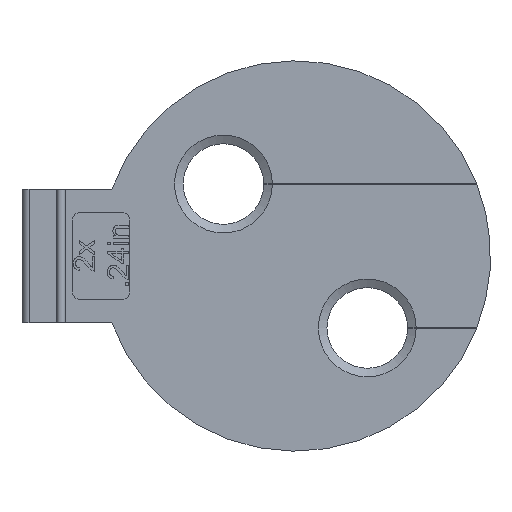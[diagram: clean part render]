
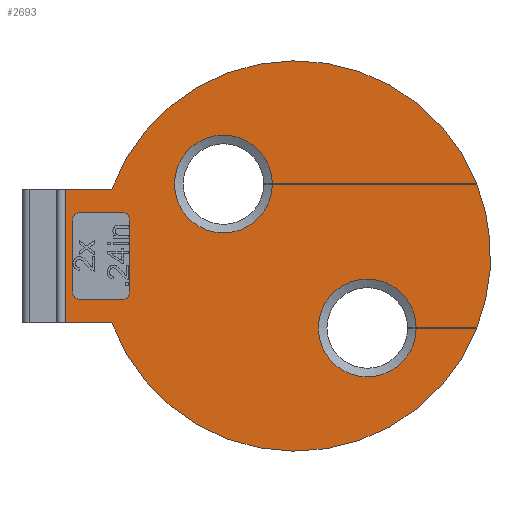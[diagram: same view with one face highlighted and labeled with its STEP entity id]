
A CAD part, left-side view. The second image highlights one B-rep face of the part: STEP entity #2693.
In plain terms, the highlighted planar face has unit normal (-1, 0, 0).
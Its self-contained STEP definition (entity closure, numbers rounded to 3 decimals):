
#26=FACE_BOUND('',#449,.T.);
#128=CIRCLE('',#2745,13.57);
#131=CIRCLE('',#2749,13.57);
#132=CIRCLE('',#2751,13.57);
#142=CIRCLE('',#2828,0.5);
#143=CIRCLE('',#2831,0.5);
#144=CIRCLE('',#2834,0.5);
#145=CIRCLE('',#2837,0.5);
#148=CIRCLE('',#2845,3.4);
#151=CIRCLE('',#2851,3.4);
#298=FACE_OUTER_BOUND('',#448,.T.);
#448=EDGE_LOOP('',(#2404,#2405,#2406,#2407,#2408,#2409,#2410,#2411,#2412,
#2413,#2414,#2415));
#449=EDGE_LOOP('',(#2416,#2417,#2418,#2419,#2420,#2421,#2422,#2423));
#471=LINE('',#3506,#761);
#481=LINE('',#3535,#771);
#489=LINE('',#3552,#779);
#499=LINE('',#3581,#789);
#705=LINE('',#4471,#995);
#708=LINE('',#4479,#998);
#711=LINE('',#4487,#1001);
#714=LINE('',#4494,#1004);
#716=LINE('',#4514,#1006);
#738=LINE('',#4570,#1028);
#744=LINE('',#4581,#1034);
#761=VECTOR('',#2892,10.);
#771=VECTOR('',#2904,10.);
#779=VECTOR('',#2914,10.);
#789=VECTOR('',#2926,10.);
#995=VECTOR('',#3334,10.);
#998=VECTOR('',#3343,10.);
#1001=VECTOR('',#3352,10.);
#1004=VECTOR('',#3361,10.);
#1006=VECTOR('',#3393,10.);
#1028=VECTOR('',#3437,10.);
#1034=VECTOR('',#3453,10.);
#1051=VERTEX_POINT('',#3503);
#1052=VERTEX_POINT('',#3505);
#1063=VERTEX_POINT('',#3532);
#1064=VERTEX_POINT('',#3534);
#1071=VERTEX_POINT('',#3549);
#1072=VERTEX_POINT('',#3551);
#1083=VERTEX_POINT('',#3578);
#1084=VERTEX_POINT('',#3580);
#1087=VERTEX_POINT('',#3603);
#1090=VERTEX_POINT('',#3611);
#1267=VERTEX_POINT('',#4464);
#1268=VERTEX_POINT('',#4466);
#1269=VERTEX_POINT('',#4470);
#1270=VERTEX_POINT('',#4474);
#1271=VERTEX_POINT('',#4478);
#1272=VERTEX_POINT('',#4482);
#1273=VERTEX_POINT('',#4486);
#1274=VERTEX_POINT('',#4490);
#1277=VERTEX_POINT('',#4512);
#1300=VERTEX_POINT('',#4569);
#1311=EDGE_CURVE('',#1052,#1051,#471,.T.);
#1323=EDGE_CURVE('',#1064,#1063,#481,.T.);
#1331=EDGE_CURVE('',#1072,#1071,#489,.T.);
#1343=EDGE_CURVE('',#1084,#1083,#499,.T.);
#1356=EDGE_CURVE('',#1072,#1087,#128,.T.);
#1361=EDGE_CURVE('',#1090,#1063,#131,.T.);
#1362=EDGE_CURVE('',#1052,#1083,#132,.T.);
#1623=EDGE_CURVE('',#1268,#1267,#142,.T.);
#1625=EDGE_CURVE('',#1269,#1268,#705,.T.);
#1627=EDGE_CURVE('',#1270,#1269,#143,.T.);
#1629=EDGE_CURVE('',#1271,#1270,#708,.T.);
#1631=EDGE_CURVE('',#1272,#1271,#144,.T.);
#1633=EDGE_CURVE('',#1273,#1272,#711,.T.);
#1635=EDGE_CURVE('',#1274,#1273,#145,.T.);
#1637=EDGE_CURVE('',#1267,#1274,#714,.T.);
#1640=EDGE_CURVE('',#1071,#1084,#148,.T.);
#1643=EDGE_CURVE('',#1051,#1064,#151,.T.);
#1646=EDGE_CURVE('',#1090,#1277,#716,.T.);
#1675=EDGE_CURVE('',#1300,#1087,#738,.T.);
#1681=EDGE_CURVE('',#1277,#1300,#744,.T.);
#2404=ORIENTED_EDGE('',*,*,#1311,.T.);
#2405=ORIENTED_EDGE('',*,*,#1643,.T.);
#2406=ORIENTED_EDGE('',*,*,#1323,.T.);
#2407=ORIENTED_EDGE('',*,*,#1361,.F.);
#2408=ORIENTED_EDGE('',*,*,#1646,.T.);
#2409=ORIENTED_EDGE('',*,*,#1681,.T.);
#2410=ORIENTED_EDGE('',*,*,#1675,.T.);
#2411=ORIENTED_EDGE('',*,*,#1356,.F.);
#2412=ORIENTED_EDGE('',*,*,#1331,.T.);
#2413=ORIENTED_EDGE('',*,*,#1640,.T.);
#2414=ORIENTED_EDGE('',*,*,#1343,.T.);
#2415=ORIENTED_EDGE('',*,*,#1362,.F.);
#2416=ORIENTED_EDGE('',*,*,#1623,.T.);
#2417=ORIENTED_EDGE('',*,*,#1637,.T.);
#2418=ORIENTED_EDGE('',*,*,#1635,.T.);
#2419=ORIENTED_EDGE('',*,*,#1633,.T.);
#2420=ORIENTED_EDGE('',*,*,#1631,.T.);
#2421=ORIENTED_EDGE('',*,*,#1629,.T.);
#2422=ORIENTED_EDGE('',*,*,#1627,.T.);
#2423=ORIENTED_EDGE('',*,*,#1625,.T.);
#2555=PLANE('',#2870);
#2693=ADVANCED_FACE('',(#298,#26),#2555,.F.);
#2745=AXIS2_PLACEMENT_3D('',#3604,#2962,#2963);
#2749=AXIS2_PLACEMENT_3D('',#3613,#2972,#2973);
#2751=AXIS2_PLACEMENT_3D('',#3615,#2976,#2977);
#2828=AXIS2_PLACEMENT_3D('',#4467,#3329,#3330);
#2831=AXIS2_PLACEMENT_3D('',#4475,#3338,#3339);
#2834=AXIS2_PLACEMENT_3D('',#4483,#3347,#3348);
#2837=AXIS2_PLACEMENT_3D('',#4491,#3356,#3357);
#2845=AXIS2_PLACEMENT_3D('',#4501,#3374,#3375);
#2851=AXIS2_PLACEMENT_3D('',#4507,#3386,#3387);
#2870=AXIS2_PLACEMENT_3D('',#4582,#3454,#3455);
#2892=DIRECTION('',(0.,1.,0.));
#2904=DIRECTION('',(0.,-1.,0.));
#2914=DIRECTION('',(0.,1.,0.));
#2926=DIRECTION('',(0.,-1.,0.));
#2962=DIRECTION('center_axis',(1.,0.,0.));
#2963=DIRECTION('ref_axis',(0.,0.,-1.));
#2972=DIRECTION('center_axis',(1.,0.,0.));
#2973=DIRECTION('ref_axis',(0.,0.,-1.));
#2976=DIRECTION('center_axis',(1.,0.,0.));
#2977=DIRECTION('ref_axis',(0.,0.,-1.));
#3329=DIRECTION('center_axis',(1.,0.,0.));
#3330=DIRECTION('ref_axis',(0.,-1.,0.));
#3334=DIRECTION('',(0.,1.,0.));
#3338=DIRECTION('center_axis',(1.,0.,0.));
#3339=DIRECTION('ref_axis',(0.,0.,1.));
#3343=DIRECTION('',(0.,0.,-1.));
#3347=DIRECTION('center_axis',(1.,0.,0.));
#3348=DIRECTION('ref_axis',(0.,1.,0.));
#3352=DIRECTION('',(0.,-1.,0.));
#3356=DIRECTION('center_axis',(1.,0.,0.));
#3357=DIRECTION('ref_axis',(0.,0.,-1.));
#3361=DIRECTION('',(0.,0.,1.));
#3374=DIRECTION('center_axis',(1.,0.,0.));
#3375=DIRECTION('ref_axis',(0.,0.,1.));
#3386=DIRECTION('center_axis',(1.,0.,0.));
#3387=DIRECTION('ref_axis',(0.,0.,-1.));
#3393=DIRECTION('',(0.,1.,0.));
#3437=DIRECTION('',(0.,-1.,0.));
#3453=DIRECTION('',(0.,0.,-1.));
#3454=DIRECTION('center_axis',(1.,0.,0.));
#3455=DIRECTION('ref_axis',(0.,0.,-1.));
#3503=CARTESIAN_POINT('',(-0.8,1.6,4.995));
#3505=CARTESIAN_POINT('',(-0.8,-12.617,4.995));
#3506=CARTESIAN_POINT('',(-0.8,-6.309,4.995));
#3532=CARTESIAN_POINT('',(-0.8,-12.613,5.005));
#3534=CARTESIAN_POINT('',(-0.8,1.6,5.005));
#3535=CARTESIAN_POINT('',(-0.8,1.1,5.005));
#3549=CARTESIAN_POINT('',(-0.8,-8.4,-5.005));
#3551=CARTESIAN_POINT('',(-0.8,-12.613,-5.005));
#3552=CARTESIAN_POINT('',(-0.8,-6.307,-5.005));
#3578=CARTESIAN_POINT('',(-0.8,-12.617,-4.995));
#3580=CARTESIAN_POINT('',(-0.8,-8.4,-4.995));
#3581=CARTESIAN_POINT('',(-0.8,-3.9,-4.995));
#3603=CARTESIAN_POINT('',(-0.8,12.748,-4.65));
#3604=CARTESIAN_POINT('Origin',(-0.8,0.,0.));
#3611=CARTESIAN_POINT('',(-0.8,12.748,4.65));
#3613=CARTESIAN_POINT('Origin',(-0.8,0.,0.));
#3615=CARTESIAN_POINT('Origin',(-0.8,0.,0.));
#4464=CARTESIAN_POINT('',(-0.8,15.5,-2.5));
#4466=CARTESIAN_POINT('',(-0.8,15.,-3.));
#4467=CARTESIAN_POINT('Origin',(-0.8,15.,-2.5));
#4470=CARTESIAN_POINT('',(-0.8,12.,-3.));
#4471=CARTESIAN_POINT('',(-0.8,7.5,-3.));
#4474=CARTESIAN_POINT('',(-0.8,11.5,-2.5));
#4475=CARTESIAN_POINT('Origin',(-0.8,12.,-2.5));
#4478=CARTESIAN_POINT('',(-0.8,11.5,2.5));
#4479=CARTESIAN_POINT('',(-0.8,11.5,-1.25));
#4482=CARTESIAN_POINT('',(-0.8,12.,3.));
#4483=CARTESIAN_POINT('Origin',(-0.8,12.,2.5));
#4486=CARTESIAN_POINT('',(-0.8,15.,3.));
#4487=CARTESIAN_POINT('',(-0.8,6.,3.));
#4490=CARTESIAN_POINT('',(-0.8,15.5,2.5));
#4491=CARTESIAN_POINT('Origin',(-0.8,15.,2.5));
#4494=CARTESIAN_POINT('',(-0.8,15.5,1.25));
#4501=CARTESIAN_POINT('Origin',(-0.8,-5.,-5.));
#4507=CARTESIAN_POINT('Origin',(-0.8,5.,5.));
#4512=CARTESIAN_POINT('',(-0.8,16.,4.65));
#4514=CARTESIAN_POINT('',(-0.8,15.618,4.65));
#4569=CARTESIAN_POINT('',(-0.8,16.,-4.65));
#4570=CARTESIAN_POINT('',(-0.8,13.655,-4.65));
#4581=CARTESIAN_POINT('',(-0.8,16.,2.325));
#4582=CARTESIAN_POINT('Origin',(-0.8,0.,0.));
